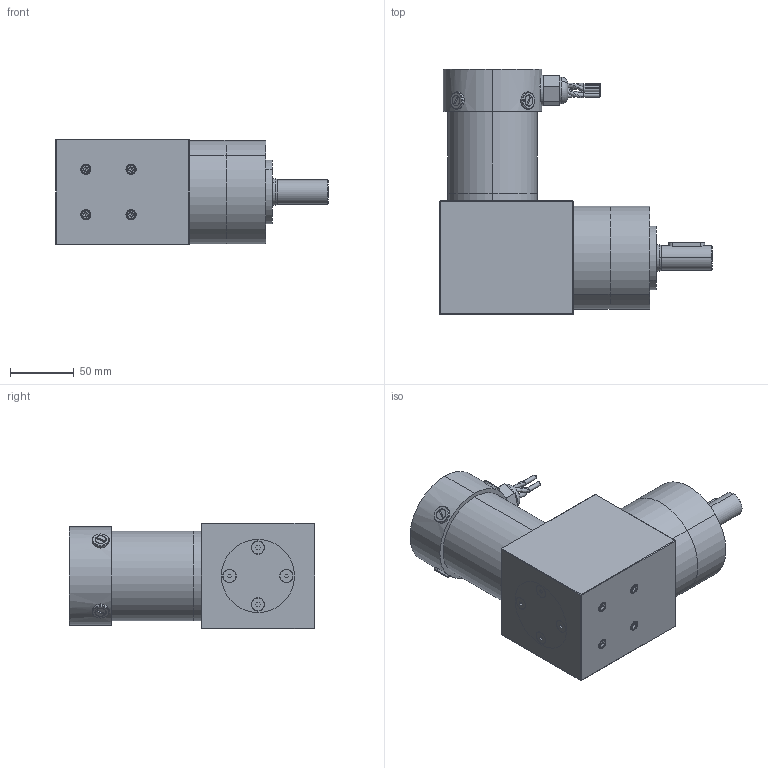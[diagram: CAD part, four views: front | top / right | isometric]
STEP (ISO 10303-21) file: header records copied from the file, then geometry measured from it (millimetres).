
FILE_DESCRIPTION (( 'STEP AP203' ), '1' );
FILE_NAME ('s27411agra1.step', '2018-12-07T20:04:57', ( '' ), ( '' ), 'SwSTEP 2.0', 'SolidWorks 2017', '' );
FILE_SCHEMA (( 'CONFIG_CONTROL_DESIGN' ));
Products named in the file (1): s27411agra1
Bounding box: 213.32 x 192.02 x 82.55 mm (x, y, z)
Volume: 1526640.4 mm3; surface area: 194043.4 mm2
Topology: 29 solids, 29 shells, 1229 faces, 3087 edges, 1961 vertices
Faces by surface type: cylinder 713, plane 364, cone 89, torus 39, bspline 16, sphere 8
Entity records: 56630 total; most frequent: CARTESIAN_POINT 29747, ORIENTED_EDGE 6126, DIRECTION 5186, EDGE_CURVE 3063, VERTEX_POINT 1961, AXIS2_PLACEMENT_3D 1955, EDGE_LOOP 1334, LINE 1276
